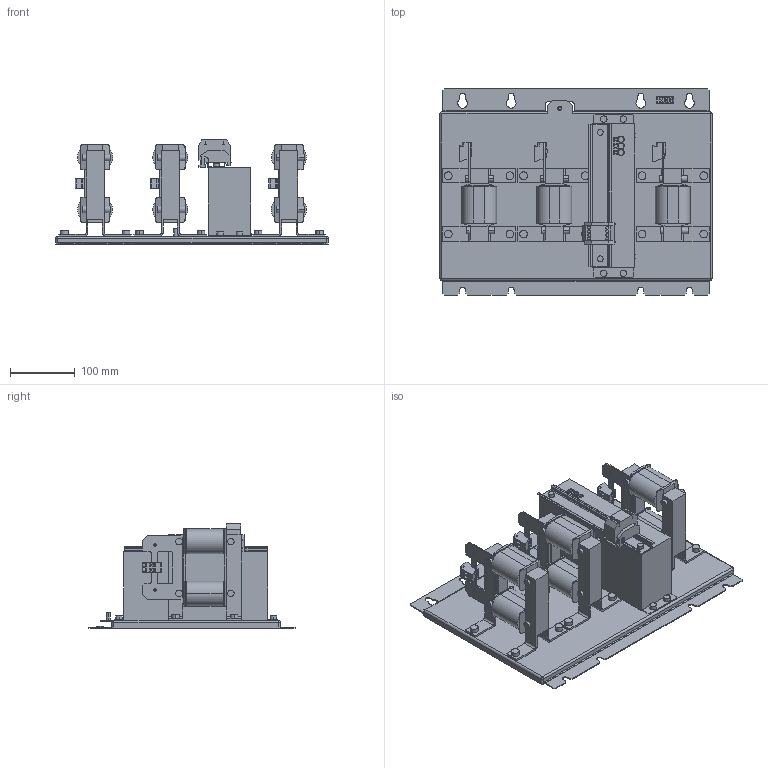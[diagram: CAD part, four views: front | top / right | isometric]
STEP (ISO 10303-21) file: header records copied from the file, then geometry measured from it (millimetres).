
FILE_DESCRIPTION (( 'STEP AP214' ), '1' );
FILE_NAME ('0DZ1I05-1001.STEP', '2023-09-26T08:27:01', ( '' ), ( '' ), 'SwSTEP 2.0', 'SolidWorks 2022', '' );
FILE_SCHEMA (( 'AUTOMOTIVE_DESIGN' ));
Length unit declared in the file: millimetre
Products named in the file (1): 0DZ1I05-1001
Bounding box: 420 x 318 x 160.8 mm (x, y, z)
Volume: 4150235.4 mm3; surface area: 552831.5 mm2
Topology: 1 solids, 1 shells, 1268 faces, 3321 edges, 2113 vertices
Faces by surface type: plane 776, cylinder 390, bspline 88, cone 14
Entity records: 41302 total; most frequent: CARTESIAN_POINT 9935, ORIENTED_EDGE 6636, DIRECTION 6316, EDGE_CURVE 3318, LINE 2208, VECTOR 2208, VERTEX_POINT 2113, AXIS2_PLACEMENT_3D 2054
